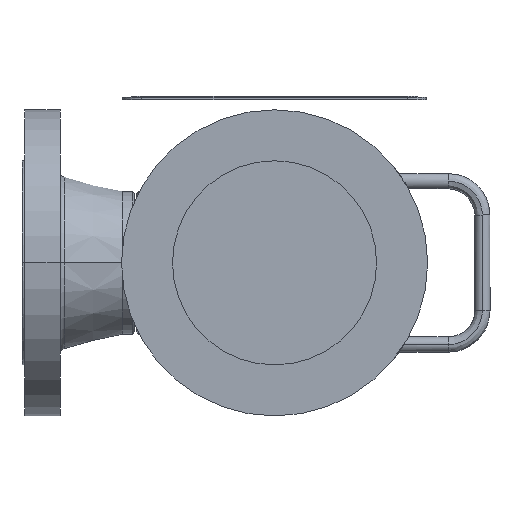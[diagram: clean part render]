
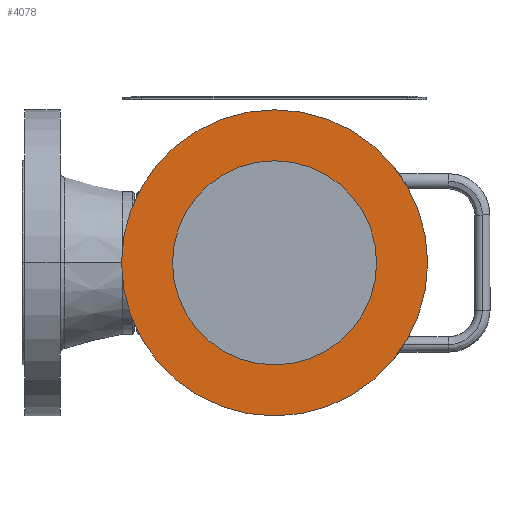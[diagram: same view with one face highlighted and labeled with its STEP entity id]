
A CAD part, left-side view. The second image highlights one B-rep face of the part: STEP entity #4078.
In plain terms, the highlighted planar face has unit normal (-1, 0, 0).
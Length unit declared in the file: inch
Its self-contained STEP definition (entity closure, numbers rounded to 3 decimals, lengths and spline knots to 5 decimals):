
#130 = AXIS2_PLACEMENT_3D ( 'NONE', #9365, #619, #4443 ) ;
#408 = ORIENTED_EDGE ( 'NONE', *, *, #1448, .F. ) ;
#619 = DIRECTION ( 'NONE',  ( -1., 0., 0. ) ) ;
#844 = CIRCLE ( 'NONE', #2259, 2.5 ) ;
#858 = CIRCLE ( 'NONE', #11858, 3.75 ) ;
#894 = EDGE_CURVE ( 'NONE', #8025, #5855, #6252, .T. ) ;
#1448 = EDGE_CURVE ( 'NONE', #5855, #8025, #844, .T. ) ;
#1699 = CARTESIAN_POINT ( 'NONE',  ( -6.125, 0., -3.75 ) ) ;
#2101 = AXIS2_PLACEMENT_3D ( 'NONE', #10724, #8725, #8662 ) ;
#2213 = VERTEX_POINT ( 'NONE', #8388 ) ;
#2259 = AXIS2_PLACEMENT_3D ( 'NONE', #9301, #11427, #7428 ) ;
#2338 = EDGE_CURVE ( 'NONE', #9389, #2213, #858, .T. ) ;
#3959 = CARTESIAN_POINT ( 'NONE',  ( -6.125, 0., -2.5 ) ) ;
#4078 = ADVANCED_FACE ( 'NONE', ( #6989, #10654 ), #7659, .T. ) ;
#4443 = DIRECTION ( 'NONE',  ( 0., 0., 1. ) ) ;
#4769 = CARTESIAN_POINT ( 'NONE',  ( -6.125, 0., 0. ) ) ;
#5080 = EDGE_CURVE ( 'NONE', #2213, #9389, #10105, .T. ) ;
#5460 = ORIENTED_EDGE ( 'NONE', *, *, #894, .F. ) ;
#5543 = ORIENTED_EDGE ( 'NONE', *, *, #2338, .T. ) ;
#5855 = VERTEX_POINT ( 'NONE', #11163 ) ;
#6252 = CIRCLE ( 'NONE', #9417, 2.5 ) ;
#6351 = EDGE_LOOP ( 'NONE', ( #8539, #5543 ) ) ;
#6848 = DIRECTION ( 'NONE',  ( -1., 0., 0. ) ) ;
#6989 = FACE_OUTER_BOUND ( 'NONE', #6351, .T. ) ;
#7428 = DIRECTION ( 'NONE',  ( 0., 0., 1. ) ) ;
#7659 = PLANE ( 'NONE',  #2101 ) ;
#8025 = VERTEX_POINT ( 'NONE', #3959 ) ;
#8388 = CARTESIAN_POINT ( 'NONE',  ( -6.125, 0., 3.75 ) ) ;
#8539 = ORIENTED_EDGE ( 'NONE', *, *, #5080, .T. ) ;
#8577 = DIRECTION ( 'NONE',  ( 0., 0., 1. ) ) ;
#8662 = DIRECTION ( 'NONE',  ( 0., 0., 1. ) ) ;
#8725 = DIRECTION ( 'NONE',  ( -1., 0., 0. ) ) ;
#9301 = CARTESIAN_POINT ( 'NONE',  ( -6.125, 0., 0. ) ) ;
#9365 = CARTESIAN_POINT ( 'NONE',  ( -6.125, 0., 0. ) ) ;
#9389 = VERTEX_POINT ( 'NONE', #1699 ) ;
#9417 = AXIS2_PLACEMENT_3D ( 'NONE', #11587, #6848, #10646 ) ;
#9753 = DIRECTION ( 'NONE',  ( -1., 0., 0. ) ) ;
#10105 = CIRCLE ( 'NONE', #130, 3.75 ) ;
#10646 = DIRECTION ( 'NONE',  ( 0., 0., 1. ) ) ;
#10654 = FACE_BOUND ( 'NONE', #11029, .T. ) ;
#10724 = CARTESIAN_POINT ( 'NONE',  ( -6.125, 0., 2.5 ) ) ;
#11029 = EDGE_LOOP ( 'NONE', ( #408, #5460 ) ) ;
#11163 = CARTESIAN_POINT ( 'NONE',  ( -6.125, 0., 2.5 ) ) ;
#11427 = DIRECTION ( 'NONE',  ( -1., 0., 0. ) ) ;
#11587 = CARTESIAN_POINT ( 'NONE',  ( -6.125, 0., 0. ) ) ;
#11858 = AXIS2_PLACEMENT_3D ( 'NONE', #4769, #9753, #8577 ) ;
